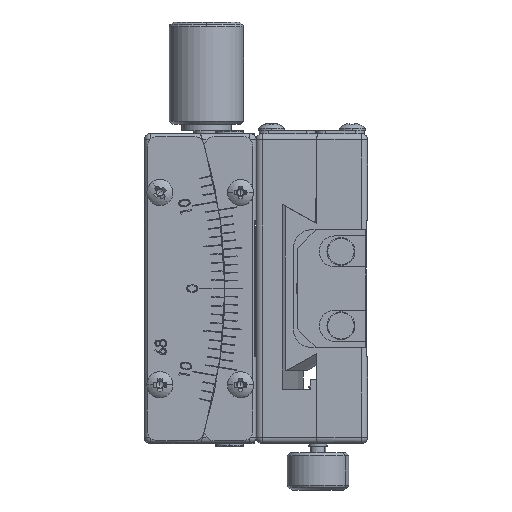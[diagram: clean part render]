
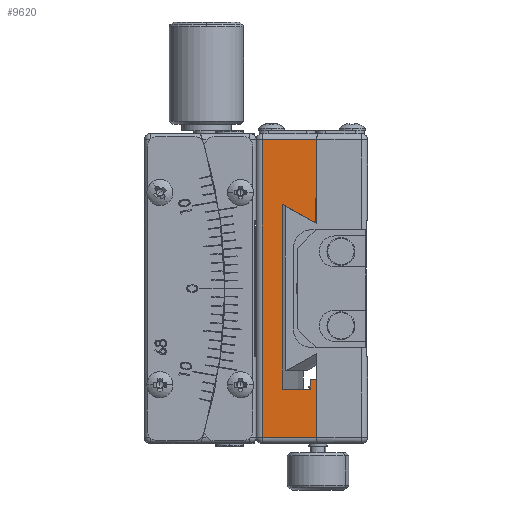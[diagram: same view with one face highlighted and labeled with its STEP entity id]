
A CAD part, left-side view. The second image highlights one B-rep face of the part: STEP entity #9620.
In plain terms, the highlighted planar face has unit normal (-1, 0, 0).
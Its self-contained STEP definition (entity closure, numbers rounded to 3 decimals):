
#363 = CARTESIAN_POINT ( 'NONE',  ( -25., -86., 24. ) ) ;
#681 = EDGE_CURVE ( 'NONE', #88935, #56926, #14370, .T. ) ;
#1857 = VERTEX_POINT ( 'NONE', #92395 ) ;
#4978 = CARTESIAN_POINT ( 'NONE',  ( -25., -90.2, -16.2 ) ) ;
#5198 = CARTESIAN_POINT ( 'NONE',  ( -25., -95.791, -14.7 ) ) ;
#9458 = VECTOR ( 'NONE', #57826, 1000. ) ;
#9536 = FACE_OUTER_BOUND ( 'NONE', #88963, .T. ) ;
#9620 = ADVANCED_FACE ( 'NONE', ( #9536 ), #9926, .F. ) ;
#9926 = PLANE ( 'NONE',  #22526 ) ;
#10324 = EDGE_CURVE ( 'NONE', #88656, #55195, #11701, .T. ) ;
#10754 = CARTESIAN_POINT ( 'NONE',  ( -25., -86., -24. ) ) ;
#11365 = CARTESIAN_POINT ( 'NONE',  ( -25., -95.791, 24. ) ) ;
#11701 = LINE ( 'NONE', #363, #9458 ) ;
#11981 = DIRECTION ( 'NONE',  ( 0., 0., -1. ) ) ;
#12686 = LINE ( 'NONE', #24479, #29567 ) ;
#13268 = VECTOR ( 'NONE', #11981, 1000. ) ;
#13499 = VECTOR ( 'NONE', #14772, 1000. ) ;
#14050 = ORIENTED_EDGE ( 'NONE', *, *, #75129, .F. ) ;
#14332 = CARTESIAN_POINT ( 'NONE',  ( -25., -95.275, 10.785 ) ) ;
#14370 = LINE ( 'NONE', #10754, #50345 ) ;
#14659 = LINE ( 'NONE', #70101, #67483 ) ;
#14772 = DIRECTION ( 'NONE',  ( 0., 0., -1. ) ) ;
#16208 = CARTESIAN_POINT ( 'NONE',  ( -25., -95.585, 14.5 ) ) ;
#17177 = DIRECTION ( 'NONE',  ( 1., 0., 0. ) ) ;
#17881 = CARTESIAN_POINT ( 'NONE',  ( -25., -90.2, 13.614 ) ) ;
#18031 = LINE ( 'NONE', #79193, #13499 ) ;
#21807 = EDGE_CURVE ( 'NONE', #69337, #67090, #83488, .T. ) ;
#22029 = ORIENTED_EDGE ( 'NONE', *, *, #56378, .T. ) ;
#22526 = AXIS2_PLACEMENT_3D ( 'NONE', #59245, #17177, #67419 ) ;
#22692 = CARTESIAN_POINT ( 'NONE',  ( -25., -95.585, 11.085 ) ) ;
#23637 = EDGE_CURVE ( 'NONE', #53441, #28373, #33253, .T. ) ;
#24479 = CARTESIAN_POINT ( 'NONE',  ( -25., -86., 14.5 ) ) ;
#26112 = EDGE_CURVE ( 'NONE', #28373, #69337, #40303, .T. ) ;
#26594 = EDGE_CURVE ( 'NONE', #76891, #54952, #18031, .T. ) ;
#28373 = VERTEX_POINT ( 'NONE', #86686 ) ;
#29078 = ORIENTED_EDGE ( 'NONE', *, *, #10324, .T. ) ;
#29567 = VECTOR ( 'NONE', #31680, 1000. ) ;
#29788 = EDGE_CURVE ( 'NONE', #93008, #53441, #61343, .T. ) ;
#29840 = CARTESIAN_POINT ( 'NONE',  ( -25., -87., -24. ) ) ;
#31680 = DIRECTION ( 'NONE',  ( 0., -1., 0. ) ) ;
#31702 = CARTESIAN_POINT ( 'NONE',  ( -25., -95.585, -10.496 ) ) ;
#32287 = CARTESIAN_POINT ( 'NONE',  ( -25., -91.892, 12.672 ) ) ;
#32758 = ORIENTED_EDGE ( 'NONE', *, *, #23637, .T. ) ;
#33170 = LINE ( 'NONE', #35774, #50046 ) ;
#33253 = B_SPLINE_CURVE_WITH_KNOTS ( 'NONE', 3,
 ( #17881, #32287, #82578, #39525 ),
 .UNSPECIFIED., .F., .F.,
 ( 4, 4 ),
 ( 0.015, 0.021 ),
 .UNSPECIFIED. ) ;
#33631 = CARTESIAN_POINT ( 'NONE',  ( -25., -95.791, 25. ) ) ;
#35774 = CARTESIAN_POINT ( 'NONE',  ( -25., -86., -14.7 ) ) ;
#35896 = ORIENTED_EDGE ( 'NONE', *, *, #77305, .T. ) ;
#35999 = CARTESIAN_POINT ( 'NONE',  ( -25., -95.481, 10.985 ) ) ;
#38333 = DIRECTION ( 'NONE',  ( 0., 0., 1. ) ) ;
#39525 = CARTESIAN_POINT ( 'NONE',  ( -25., -95.275, 10.785 ) ) ;
#40303 = B_SPLINE_CURVE_WITH_KNOTS ( 'NONE', 3,
 ( #14332, #57360, #35999, #86346 ),
 .UNSPECIFIED., .F., .F.,
 ( 4, 4 ),
 ( 0.018, 0.018 ),
 .UNSPECIFIED. ) ;
#43013 = VECTOR ( 'NONE', #74751, 1000. ) ;
#43023 = DIRECTION ( 'NONE',  ( 0., 1., 0. ) ) ;
#43119 = CARTESIAN_POINT ( 'NONE',  ( -25., -87., 25. ) ) ;
#43353 = ORIENTED_EDGE ( 'NONE', *, *, #57797, .T. ) ;
#43967 = LINE ( 'NONE', #68362, #79977 ) ;
#46016 = ORIENTED_EDGE ( 'NONE', *, *, #681, .T. ) ;
#46556 = DIRECTION ( 'NONE',  ( 0., -1., 0. ) ) ;
#50046 = VECTOR ( 'NONE', #43023, 1000. ) ;
#50345 = VECTOR ( 'NONE', #46556, 1000. ) ;
#50746 = CARTESIAN_POINT ( 'NONE',  ( -25., -90.2, 13.614 ) ) ;
#50863 = VERTEX_POINT ( 'NONE', #5198 ) ;
#53230 = CARTESIAN_POINT ( 'NONE',  ( -25., -95.791, -24. ) ) ;
#53441 = VERTEX_POINT ( 'NONE', #50746 ) ;
#54952 = VERTEX_POINT ( 'NONE', #58590 ) ;
#55195 = VERTEX_POINT ( 'NONE', #60581 ) ;
#55348 = LINE ( 'NONE', #43119, #57608 ) ;
#56378 = EDGE_CURVE ( 'NONE', #67090, #1857, #12686, .T. ) ;
#56926 = VERTEX_POINT ( 'NONE', #53230 ) ;
#57360 = CARTESIAN_POINT ( 'NONE',  ( -25., -95.378, 10.885 ) ) ;
#57608 = VECTOR ( 'NONE', #78970, 1000. ) ;
#57797 = EDGE_CURVE ( 'NONE', #55195, #88935, #55348, .T. ) ;
#57826 = DIRECTION ( 'NONE',  ( 0., 1., 0. ) ) ;
#58590 = CARTESIAN_POINT ( 'NONE',  ( -25., -94.758, -16.2 ) ) ;
#59245 = CARTESIAN_POINT ( 'NONE',  ( -25., -86., 25. ) ) ;
#60581 = CARTESIAN_POINT ( 'NONE',  ( -25., -87., 24. ) ) ;
#61343 = LINE ( 'NONE', #74172, #63583 ) ;
#62732 = ORIENTED_EDGE ( 'NONE', *, *, #26594, .T. ) ;
#63583 = VECTOR ( 'NONE', #38333, 1000. ) ;
#65420 = CARTESIAN_POINT ( 'NONE',  ( -25., -94.758, -14.7 ) ) ;
#67090 = VERTEX_POINT ( 'NONE', #16208 ) ;
#67419 = DIRECTION ( 'NONE',  ( 0., 1., 0. ) ) ;
#67483 = VECTOR ( 'NONE', #77361, 1000. ) ;
#68362 = CARTESIAN_POINT ( 'NONE',  ( -25., -86., -16.2 ) ) ;
#69337 = VERTEX_POINT ( 'NONE', #22692 ) ;
#70101 = CARTESIAN_POINT ( 'NONE',  ( -25., -95.791, 25. ) ) ;
#74172 = CARTESIAN_POINT ( 'NONE',  ( -25., -90.2, 25. ) ) ;
#74751 = DIRECTION ( 'NONE',  ( 0., 0., 1. ) ) ;
#75129 = EDGE_CURVE ( 'NONE', #50863, #56926, #87531, .T. ) ;
#75611 = DIRECTION ( 'NONE',  ( 0., 1., 0. ) ) ;
#76891 = VERTEX_POINT ( 'NONE', #65420 ) ;
#77305 = EDGE_CURVE ( 'NONE', #50863, #76891, #33170, .T. ) ;
#77361 = DIRECTION ( 'NONE',  ( 0., 0., -1. ) ) ;
#78970 = DIRECTION ( 'NONE',  ( 0., 0., -1. ) ) ;
#79193 = CARTESIAN_POINT ( 'NONE',  ( -25., -94.758, -10.496 ) ) ;
#79977 = VECTOR ( 'NONE', #75611, 1000. ) ;
#81580 = EDGE_CURVE ( 'NONE', #54952, #93008, #43967, .T. ) ;
#82578 = CARTESIAN_POINT ( 'NONE',  ( -25., -93.584, 11.729 ) ) ;
#83070 = ORIENTED_EDGE ( 'NONE', *, *, #21807, .T. ) ;
#83389 = ORIENTED_EDGE ( 'NONE', *, *, #85316, .F. ) ;
#83488 = LINE ( 'NONE', #31702, #43013 ) ;
#85316 = EDGE_CURVE ( 'NONE', #88656, #1857, #14659, .T. ) ;
#85984 = ORIENTED_EDGE ( 'NONE', *, *, #81580, .T. ) ;
#86346 = CARTESIAN_POINT ( 'NONE',  ( -25., -95.585, 11.085 ) ) ;
#86686 = CARTESIAN_POINT ( 'NONE',  ( -25., -95.275, 10.785 ) ) ;
#87531 = LINE ( 'NONE', #33631, #13268 ) ;
#88656 = VERTEX_POINT ( 'NONE', #11365 ) ;
#88935 = VERTEX_POINT ( 'NONE', #29840 ) ;
#88963 = EDGE_LOOP ( 'NONE', ( #92269, #32758, #89182, #83070, #22029, #83389, #29078, #43353, #46016, #14050, #35896, #62732, #85984 ) ) ;
#89182 = ORIENTED_EDGE ( 'NONE', *, *, #26112, .T. ) ;
#92269 = ORIENTED_EDGE ( 'NONE', *, *, #29788, .T. ) ;
#92395 = CARTESIAN_POINT ( 'NONE',  ( -25., -95.791, 14.5 ) ) ;
#93008 = VERTEX_POINT ( 'NONE', #4978 ) ;
